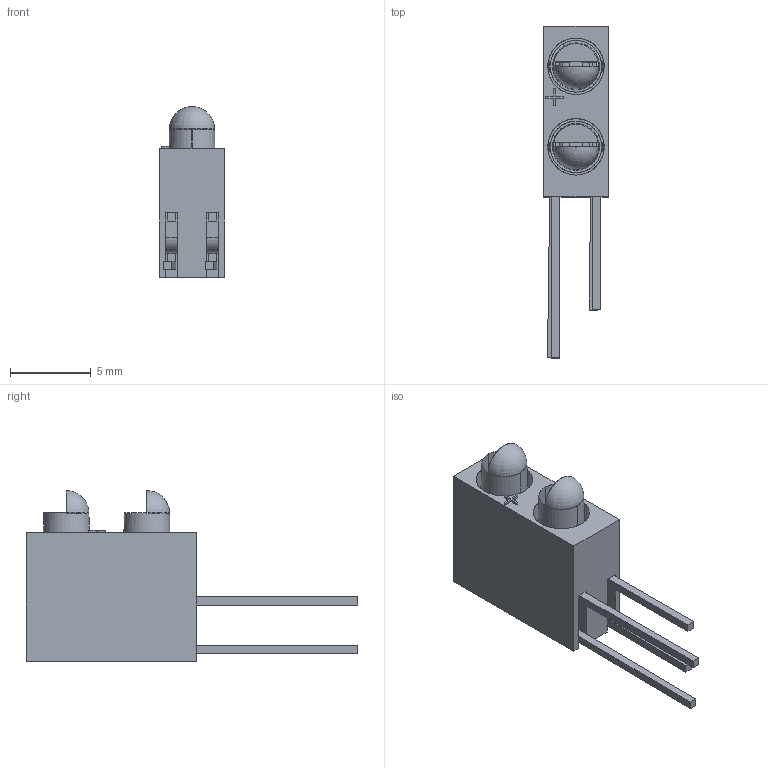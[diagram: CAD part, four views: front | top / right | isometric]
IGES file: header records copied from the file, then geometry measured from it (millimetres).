
Start section: SolidWorks IGES file using analytic representation for surfaces
Global section: file name: G:\Marl\DESIGN\Paul Robson\STEP-IGES FILES\109 Series\109 Series.IGS; native system: SolidWorks 2016; preprocessor: SolidWorks 2016; author: Paulr; date: 160803.084247; units: millimetre
Bounding box: 4 x 20.59 x 10.6 mm (x, y, z)
Surface area: 758.5 mm2 (no closed solid volume)
Topology: 0 solids, 0 shells, 229 faces, 1622 edges, 1620 vertices
Faces by surface type: bspline 201, revolution 28
